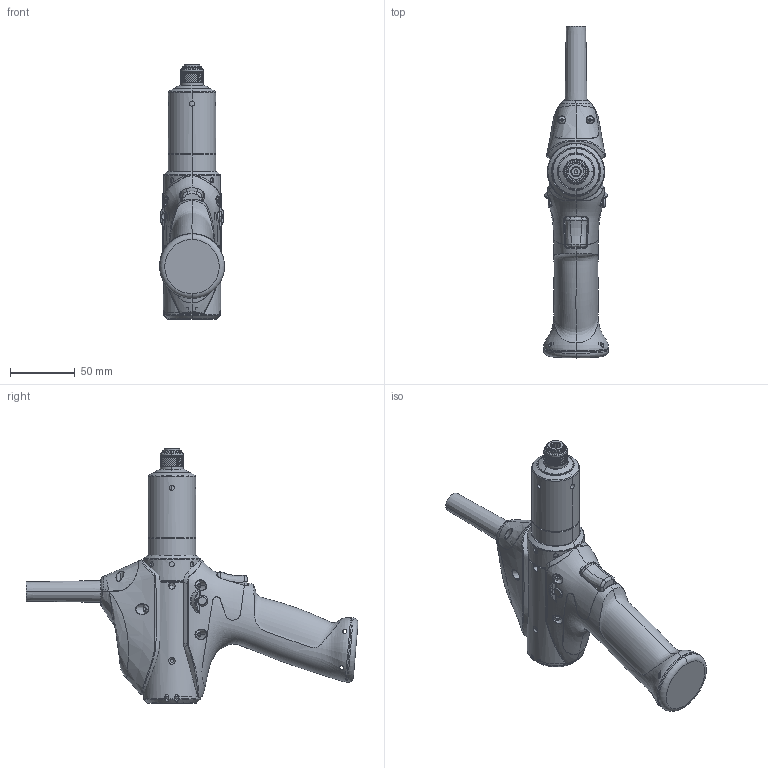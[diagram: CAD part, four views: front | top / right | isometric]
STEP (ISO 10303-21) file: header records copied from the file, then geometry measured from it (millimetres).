
FILE_DESCRIPTION((''),'2;1');
FILE_NAME('ERP-ECP-3LT-5LT-10LT-20LT','2013-09-09T',('greextsd'),(''),'PRO/ENGINEER BY PARAMETRIC TECHNOLOGY CORPORATION, 2012420','PRO/ENGINEER BY PARAMETRIC TECHNOLOGY CORPORATION, 2012420','');
FILE_SCHEMA(('CONFIG_CONTROL_DESIGN'));
Products named in the file (1): ERP-ECP-3LT-5LT-10LT-20LT
Bounding box: 50.09 x 256.04 x 196.2 mm (x, y, z)
Volume: 175694.8 mm3; surface area: 157324 mm2
Topology: 9 solids, 12 shells, 5593 faces, 12761 edges, 7196 vertices
Faces by surface type: bspline 2430, cylinder 1291, plane 1232, cone 297, torus 223, sphere 71, extrusion 45, revolution 4
Entity records: 358162 total; most frequent: CARTESIAN_POINT 254427, ORIENTED_EDGE 25404, DIRECTION 14513, EDGE_CURVE 12702, VERTEX_POINT 7196, B_SPLINE_CURVE_WITH_KNOTS 7079, EDGE_LOOP 5804, AXIS2_PLACEMENT_3D 5677
